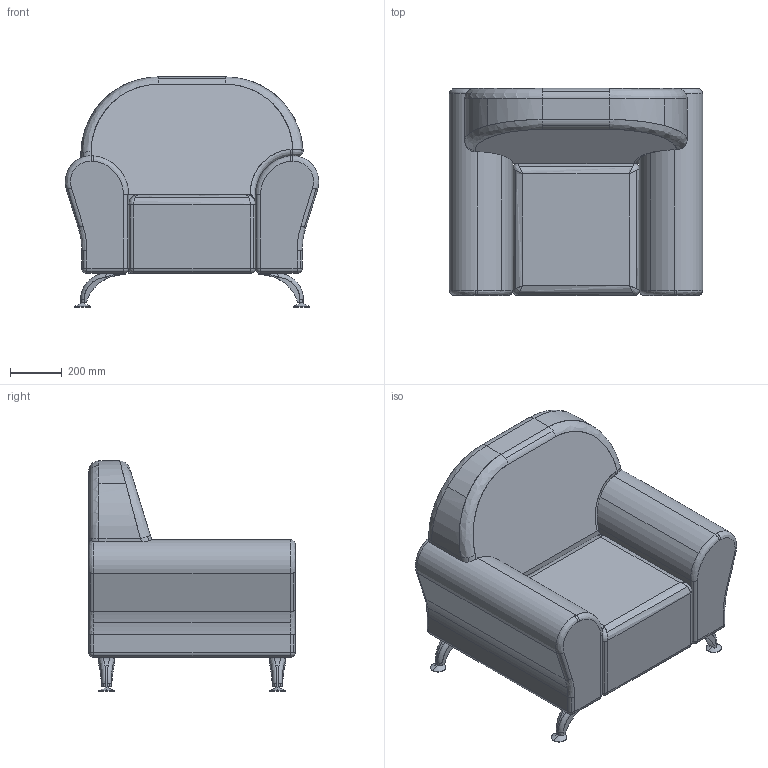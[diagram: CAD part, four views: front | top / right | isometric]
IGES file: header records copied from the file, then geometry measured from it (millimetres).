
Start section: IMSI TurboCAD v14.0
Global section: author: NULL; organization: NULL; date: 20121022.171032; units: millimetre
Bounding box: 980.7 x 800 x 890 mm (x, y, z)
Surface area: 5036467.9 mm2 (no closed solid volume)
Topology: 0 solids, 0 shells, 273 faces, 1289 edges, 1264 vertices
Faces by surface type: revolution 183, extrusion 72, bspline 18
